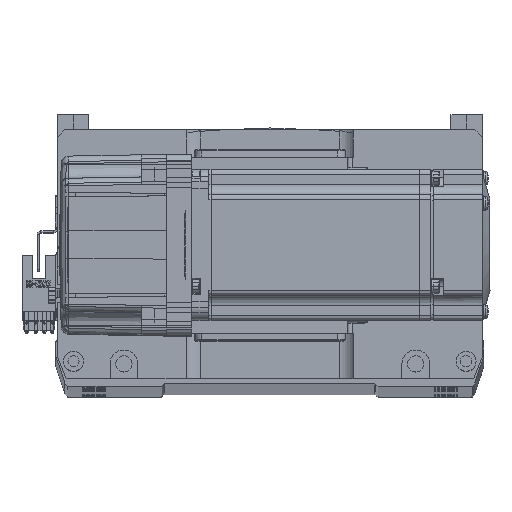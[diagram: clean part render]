
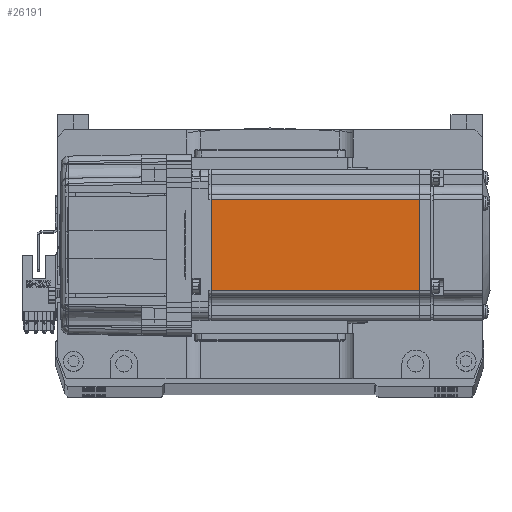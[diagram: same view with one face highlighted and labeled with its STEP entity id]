
A CAD part, top view. The second image highlights one B-rep face of the part: STEP entity #26191.
In plain terms, the highlighted planar face has unit normal (0, 0, 1) as drawn and (0, -1, 0) by its records, which use the part's own axes.
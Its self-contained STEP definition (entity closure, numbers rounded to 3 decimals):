
#520 = ORIENTED_EDGE ( 'NONE', *, *, #57263, .T. ) ;
#2527 = FACE_OUTER_BOUND ( 'NONE', #40615, .T. ) ;
#2667 = DIRECTION ( 'NONE',  ( 0., -1., 0. ) ) ;
#4282 = VECTOR ( 'NONE', #12474, 1000. ) ;
#6848 = AXIS2_PLACEMENT_3D ( 'NONE', #44072, #2667, #49871 ) ;
#7616 = VERTEX_POINT ( 'NONE', #42594 ) ;
#10189 = EDGE_CURVE ( 'NONE', #50262, #68477, #63866, .T. ) ;
#12474 = DIRECTION ( 'NONE',  ( 0., 0., 1. ) ) ;
#18970 = EDGE_CURVE ( 'NONE', #7616, #50262, #23642, .T. ) ;
#20374 = VERTEX_POINT ( 'NONE', #20999 ) ;
#20999 = CARTESIAN_POINT ( 'NONE',  ( -90.45, -30., 18. ) ) ;
#22038 = LINE ( 'NONE', #43183, #58382 ) ;
#23642 = LINE ( 'NONE', #48061, #68370 ) ;
#26191 = ADVANCED_FACE ( 'NONE', ( #2527 ), #60684, .T. ) ;
#37558 = ORIENTED_EDGE ( 'NONE', *, *, #10189, .T. ) ;
#38834 = CARTESIAN_POINT ( 'NONE',  ( -7.75, -30., -25. ) ) ;
#39521 = DIRECTION ( 'NONE',  ( 0., 0., -1. ) ) ;
#40615 = EDGE_LOOP ( 'NONE', ( #37558, #520, #61541, #67044 ) ) ;
#41676 = VECTOR ( 'NONE', #39521, 1000. ) ;
#42285 = DIRECTION ( 'NONE',  ( 1., 0., 0. ) ) ;
#42594 = CARTESIAN_POINT ( 'NONE',  ( -90.45, -30., -18. ) ) ;
#43183 = CARTESIAN_POINT ( 'NONE',  ( -6.5, -30., 18. ) ) ;
#43382 = CARTESIAN_POINT ( 'NONE',  ( -7.75, -30., -18. ) ) ;
#44072 = CARTESIAN_POINT ( 'NONE',  ( -6.5, -30., -25. ) ) ;
#45064 = CARTESIAN_POINT ( 'NONE',  ( -90.45, -30., -25. ) ) ;
#48061 = CARTESIAN_POINT ( 'NONE',  ( -6.5, -30., -18. ) ) ;
#48982 = DIRECTION ( 'NONE',  ( -1., 0., 0. ) ) ;
#49871 = DIRECTION ( 'NONE',  ( 0., 0., -1. ) ) ;
#50262 = VERTEX_POINT ( 'NONE', #43382 ) ;
#50319 = CARTESIAN_POINT ( 'NONE',  ( -7.75, -30., 18. ) ) ;
#52022 = EDGE_CURVE ( 'NONE', #20374, #7616, #63938, .T. ) ;
#57263 = EDGE_CURVE ( 'NONE', #68477, #20374, #22038, .T. ) ;
#58382 = VECTOR ( 'NONE', #48982, 1000. ) ;
#60684 = PLANE ( 'NONE',  #6848 ) ;
#61541 = ORIENTED_EDGE ( 'NONE', *, *, #52022, .T. ) ;
#63866 = LINE ( 'NONE', #38834, #4282 ) ;
#63938 = LINE ( 'NONE', #45064, #41676 ) ;
#67044 = ORIENTED_EDGE ( 'NONE', *, *, #18970, .T. ) ;
#68370 = VECTOR ( 'NONE', #42285, 1000. ) ;
#68477 = VERTEX_POINT ( 'NONE', #50319 ) ;
